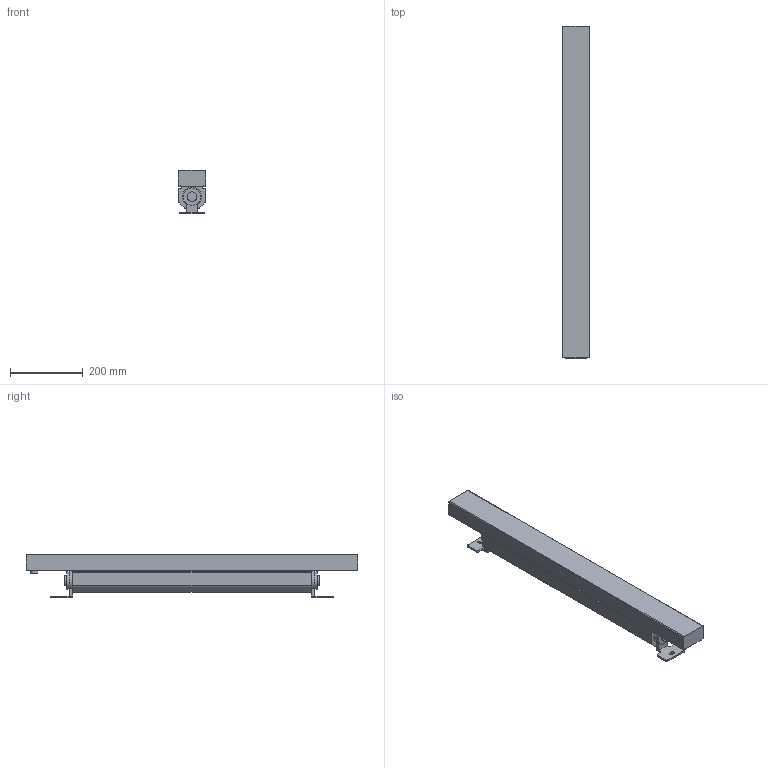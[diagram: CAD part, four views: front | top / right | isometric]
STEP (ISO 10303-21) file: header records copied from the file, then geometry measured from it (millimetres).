
FILE_DESCRIPTION(/* description */ ('Unknown'),/* implementation_level */ '2;1');
FILE_NAME(/* name */ 'Eminere 3 MC',/* time_stamp */ '2024-06-18T11:49:51+02:00',/* author */ ('Unknown'),/* organization */ ('Unknown'),/* preprocessor_version */ 'ST-DEVELOPER v19.4',/* originating_system */ 'Solid Edge',/* authorisation */ 'Unknown');
FILE_SCHEMA (('AUTOMOTIVE_DESIGN {1 0 10303 214 3 1 1}'));
Length unit declared in the file: millimetre
Products named in the file (1): Eminere 3 MC
Bounding box: 76 x 914.4 x 120.6 mm (x, y, z)
Volume: 5857026.8 mm3; surface area: 341069 mm2
Topology: 1 solids, 1 shells, 96 faces, 264 edges, 175 vertices
Faces by surface type: plane 55, cylinder 40, bspline 1
Full cylindrical faces by diameter (mm): 26 x2, 48 x2
Entity records: 3848 total; most frequent: CARTESIAN_POINT 644, DIRECTION 528, ORIENTED_EDGE 516, EDGE_CURVE 258, AXIS2_PLACEMENT_3D 180, VERTEX_POINT 174, LINE 168, VECTOR 168
